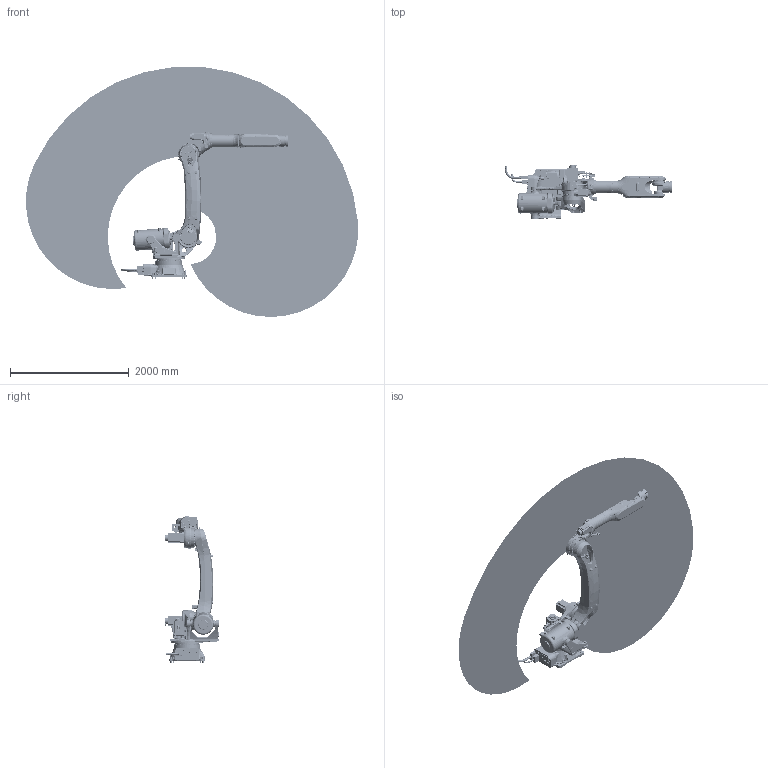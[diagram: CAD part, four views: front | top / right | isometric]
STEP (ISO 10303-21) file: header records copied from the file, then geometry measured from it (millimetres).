
FILE_DESCRIPTION(/* description */ (''),/* implementation_level */ '2;1');
FILE_NAME(/* name */ 'NB220-15032 简化模型（20251208）.stp',/* time_stamp */ '2025-12-09T10:51:46+08:00',/* author */ (''),/* organization */ (''),/* preprocessor_version */ 'ST-DEVELOPER v16',/* originating_system */ 'SIEMENS PLM Software NX 10.0',/* authorisation */ '');
FILE_SCHEMA (('CONFIG_CONTROL_DESIGN'));
Products named in the file (14): NB220-15032-xiaobiyanc-A; NB220-15032-xiaobiqian-A; NB220-15032-3Dwork-A; ROKAE标识1.5倍; NB220-15032-shuchu-A; NB220-15032-shouwan-A; NB220-15032-xiaobihou-A; NB220-15032-lagan-A; NB220-15032-dabi-A; NB220-15032-gang-A; NB220-15032-yao-A; NB220-15032-base-A; NB220-15032-xiaobiqianlong-A; NB220-15032 简化模型（20251208）
Assembly tree (14 placements, depth 3):
  NB220-15032 简化模型（20251208）
    NB220-15032-base-A
    NB220-15032-yao-A
    NB220-15032-gang-A
    NB220-15032-dabi-A
    NB220-15032-lagan-A
    NB220-15032-xiaobihou-A
    NB220-15032-xiaobiqianlong-A
      NB220-15032-xiaobiqian-A
      NB220-15032-xiaobiyanc-A
    NB220-15032-shouwan-A
    NB220-15032-shuchu-A
    ROKAE标识1.5倍  x2
    NB220-15032-3Dwork-A
Bounding box: 5601.88 x 923 x 4217.84 mm (x, y, z)
Volume: 344983263.5 mm3; surface area: 27021625.1 mm2
Topology: 26 solids, 95 shells, 8666 faces, 20803 edges, 12725 vertices
Faces by surface type: plane 3040, cylinder 2173, bspline 2026, cone 697, torus 641, sphere 74, extrusion 13, revolution 2
Full cylindrical faces by diameter (mm): 2.874 x8, 5 x36, 5.795 x20, 6 x6, 6.5 x8, 6.6 x4, 6.8 x4, 7 x20, 8 x2, 8.5 x19, 8.566 x1, 8.839 x2, 10 x46, 10.3 x43, 11.05 x10, 12 x3, 13 x36, 13.629 x1, 14 x3, 16 x17, 17.5 x4, 18 x43, 20 x14, 20.685 x2, 24 x8, 25 x1, 25.492 x1, 27 x4, 30 x10, 35 x5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
Entity records: 372996 total; most frequent: CARTESIAN_POINT 191139, ORIENTED_EDGE 38143, DIRECTION 34534, EDGE_CURVE 19078, AXIS2_PLACEMENT_3D 13617, VERTEX_POINT 12255, EDGE_LOOP 10227, ADVANCED_FACE 8579
